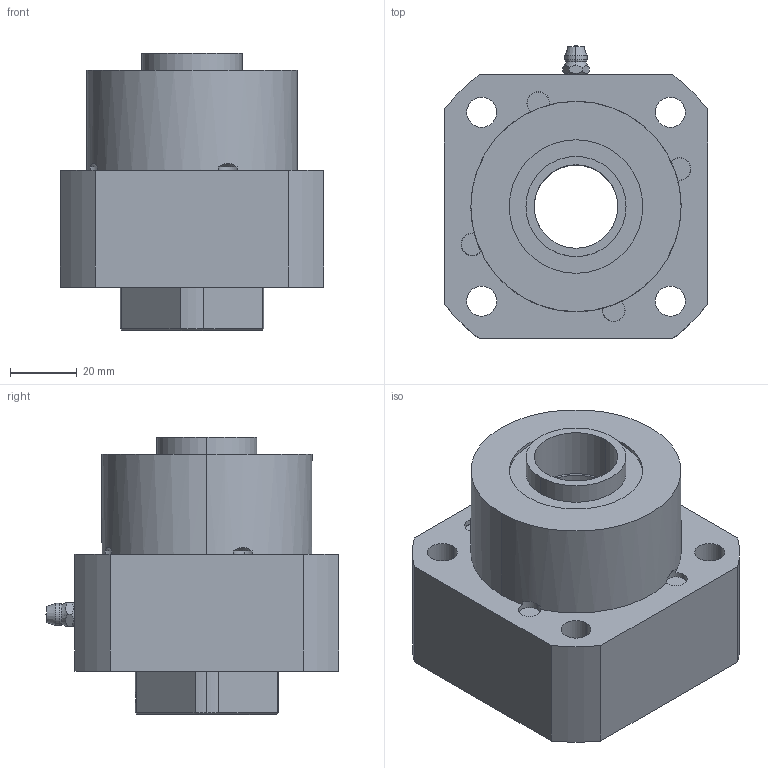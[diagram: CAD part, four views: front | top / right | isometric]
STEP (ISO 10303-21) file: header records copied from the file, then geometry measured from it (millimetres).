
FILE_DESCRIPTION (( 'STEP AP203' ), '1' );
FILE_NAME ('FK25G.STEP', '2018-09-15T03:28:44', ( '' ), ( '' ), 'SwSTEP 2.0', 'SolidWorks 2015', '' );
FILE_SCHEMA (( 'CONFIG_CONTROL_DESIGN' ));
Length unit declared in the file: millimetre
Products named in the file (1): FK25G
Bounding box: 79 x 87.9 x 83 mm (x, y, z)
Volume: 245237.9 mm3; surface area: 64589.9 mm2
Topology: 1 solids, 12 shells, 375 faces, 849 edges, 516 vertices
Faces by surface type: cylinder 131, plane 128, cone 61, torus 48, bspline 7
Entity records: 10962 total; most frequent: CARTESIAN_POINT 2254, DIRECTION 1974, ORIENTED_EDGE 1674, EDGE_CURVE 837, AXIS2_PLACEMENT_3D 818, VERTEX_POINT 516, CIRCLE 449, EDGE_LOOP 437
